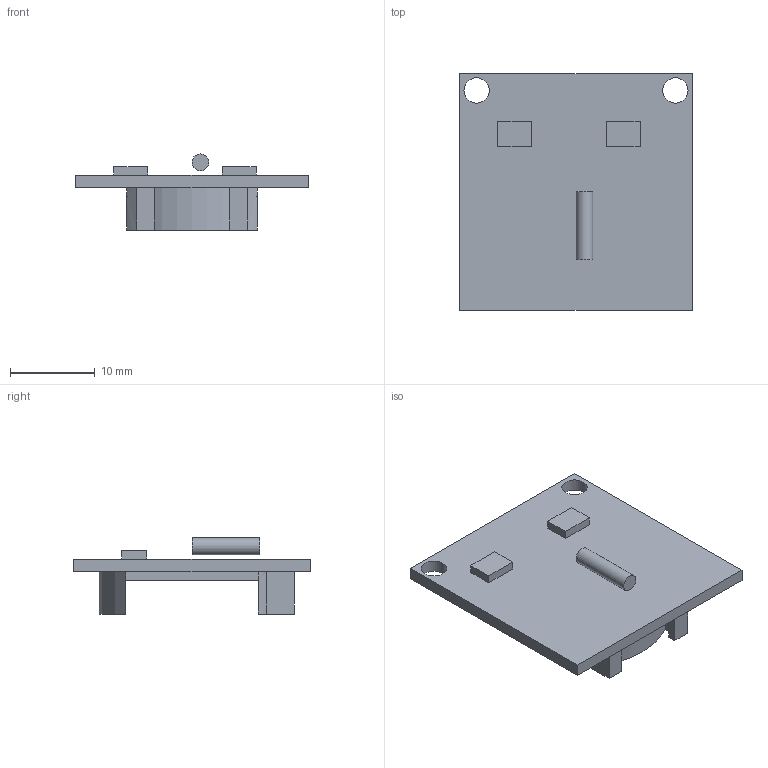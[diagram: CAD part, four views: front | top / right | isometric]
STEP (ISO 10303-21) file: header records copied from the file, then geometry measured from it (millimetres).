
FILE_DESCRIPTION(('FreeCAD Model'),'2;1');
FILE_NAME('Open CASCADE Shape Model','2023-04-10T16:49:37',('Author'),( ''),'Open CASCADE STEP processor 7.5','FreeCAD','Unknown');
FILE_SCHEMA(('AUTOMOTIVE_DESIGN { 1 0 10303 214 1 1 1 1 }'));
Length unit declared in the file: millimetre
Products named in the file (3): clock; Body003; Цилиндр
Assembly tree (2 placements, depth 2):
  clock
    Body003
    Цилиндр
Bounding box: 27.5 x 28 x 9 mm (x, y, z)
Volume: 1428.3 mm3; surface area: 2252.4 mm2
Topology: 2 solids, 2 shells, 52 faces, 123 edges, 78 vertices
Faces by surface type: plane 43, cylinder 9
Full cylindrical faces by diameter (mm): 2 x1, 3 x2
Entity records: 3168 total; most frequent: CARTESIAN_POINT 550, DIRECTION 491, LINE 327, VECTOR 327, ORIENTED_EDGE 246, PCURVE 246, DEFINITIONAL_REPRESENTATION 246, EDGE_CURVE 123
